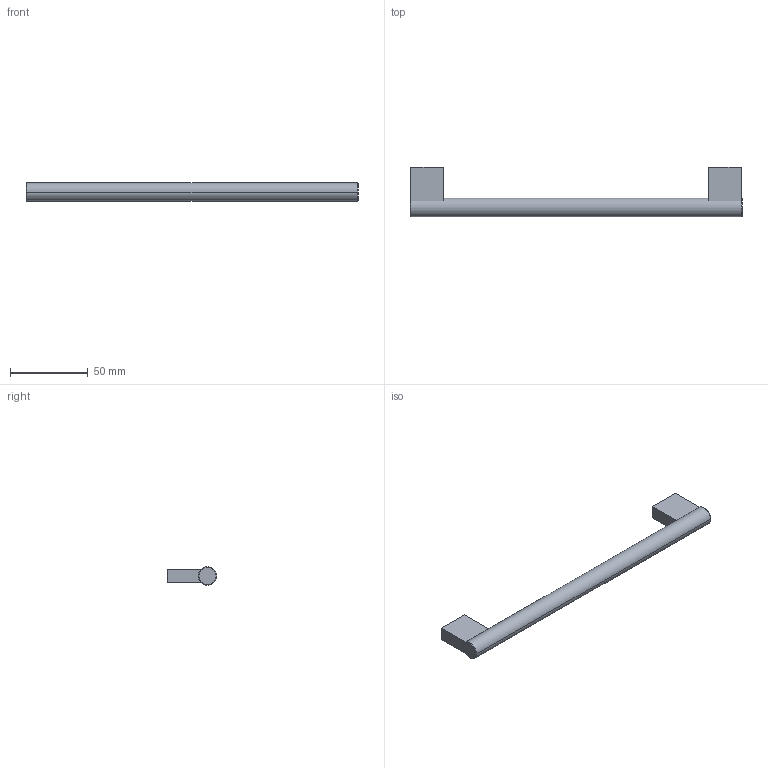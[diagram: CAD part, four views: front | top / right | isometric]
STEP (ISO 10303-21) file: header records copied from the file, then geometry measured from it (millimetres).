
FILE_DESCRIPTION( ( '' ), '1' );
FILE_NAME( 'D:/1.AUTOCAD EXPORT/Group 10/sheet_10_1/ 115243.stp', '2013-10-22T04:05:25', ( '' ), ( '' ), ' ', ' ', ' ' );
FILE_SCHEMA( ( 'automotive_design' ) );
Length unit declared in the file: millimetre
Products named in the file (1): 1
Bounding box: 214 x 32 x 11.97 mm (x, y, z)
Volume: 31596.7 mm3; surface area: 11128.9 mm2
Topology: 1 solids, 1 shells, 24 faces, 54 edges, 34 vertices
Faces by surface type: plane 14, cylinder 6, cone 4
Entity records: 1330 total; most frequent: DIRECTION 128, STYLED_ITEM 113, PRESENTATION_STYLE_ASSIGNMENT 113, CARTESIAN_POINT 113, COLOUR_RGB 113, ORIENTED_EDGE 108, EDGE_CURVE 54, CURVE_STYLE 54
